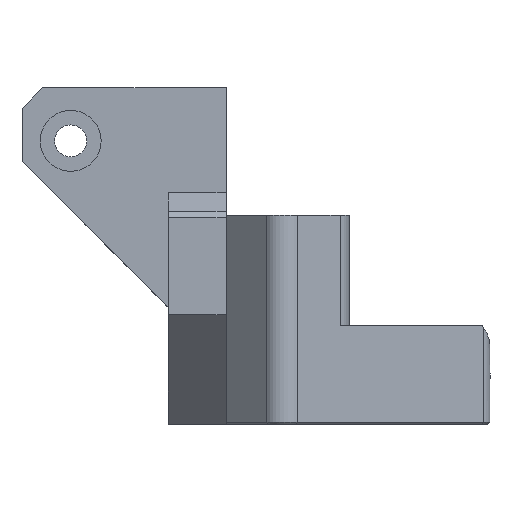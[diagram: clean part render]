
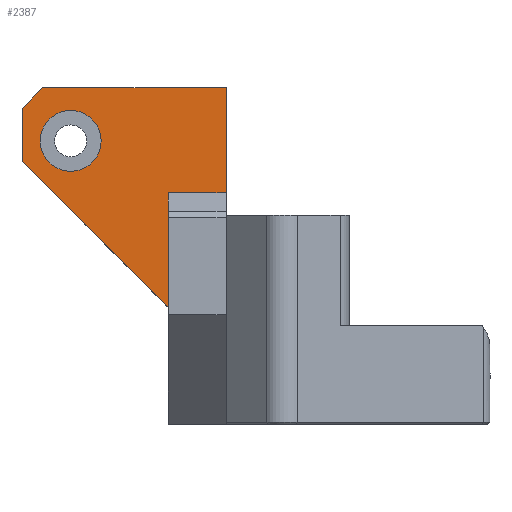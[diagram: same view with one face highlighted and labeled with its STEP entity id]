
A CAD part, left-side view. The second image highlights one B-rep face of the part: STEP entity #2387.
In plain terms, the highlighted planar face has unit normal (-1, 0, 0).
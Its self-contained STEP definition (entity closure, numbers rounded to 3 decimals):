
#99=FACE_BOUND('',#375,.T.);
#230=FACE_OUTER_BOUND('',#374,.T.);
#374=EDGE_LOOP('',(#1860,#1861,#1862,#1863,#1864,#1865,#1866,#1867,#1868,
#1869));
#375=EDGE_LOOP('',(#1870));
#493=CIRCLE('',#2558,3.);
#541=LINE('',#3276,#754);
#603=LINE('',#4470,#816);
#635=LINE('',#4588,#848);
#643=LINE('',#4611,#856);
#645=LINE('',#4614,#858);
#647=LINE('',#4620,#860);
#648=LINE('',#4621,#861);
#649=LINE('',#4622,#862);
#650=LINE('',#4624,#863);
#651=LINE('',#4625,#864);
#754=VECTOR('',#2685,10.);
#816=VECTOR('',#2831,10.);
#848=VECTOR('',#2909,10.);
#856=VECTOR('',#2935,10.);
#858=VECTOR('',#2939,10.);
#860=VECTOR('',#2945,10.);
#861=VECTOR('',#2946,10.);
#862=VECTOR('',#2947,10.);
#863=VECTOR('',#2948,10.);
#864=VECTOR('',#2949,10.);
#966=VERTEX_POINT('',#3273);
#967=VERTEX_POINT('',#3275);
#1066=VERTEX_POINT('',#4467);
#1067=VERTEX_POINT('',#4469);
#1099=VERTEX_POINT('',#4584);
#1100=VERTEX_POINT('',#4586);
#1105=VERTEX_POINT('',#4608);
#1106=VERTEX_POINT('',#4610);
#1108=VERTEX_POINT('',#4619);
#1109=VERTEX_POINT('',#4623);
#1110=VERTEX_POINT('',#4626);
#1203=EDGE_CURVE('',#967,#966,#541,.T.);
#1333=EDGE_CURVE('',#1066,#1067,#603,.T.);
#1379=EDGE_CURVE('',#1100,#1099,#635,.T.);
#1389=EDGE_CURVE('',#1105,#1106,#643,.T.);
#1391=EDGE_CURVE('',#966,#1106,#645,.T.);
#1394=EDGE_CURVE('',#1105,#1108,#647,.F.);
#1395=EDGE_CURVE('',#1108,#1067,#648,.T.);
#1396=EDGE_CURVE('',#1099,#1066,#649,.T.);
#1397=EDGE_CURVE('',#1100,#1109,#650,.T.);
#1398=EDGE_CURVE('',#1109,#967,#651,.T.);
#1399=EDGE_CURVE('',#1110,#1110,#493,.T.);
#1860=ORIENTED_EDGE('',*,*,#1389,.F.);
#1861=ORIENTED_EDGE('',*,*,#1394,.T.);
#1862=ORIENTED_EDGE('',*,*,#1395,.T.);
#1863=ORIENTED_EDGE('',*,*,#1333,.F.);
#1864=ORIENTED_EDGE('',*,*,#1396,.F.);
#1865=ORIENTED_EDGE('',*,*,#1379,.F.);
#1866=ORIENTED_EDGE('',*,*,#1397,.T.);
#1867=ORIENTED_EDGE('',*,*,#1398,.T.);
#1868=ORIENTED_EDGE('',*,*,#1203,.T.);
#1869=ORIENTED_EDGE('',*,*,#1391,.T.);
#1870=ORIENTED_EDGE('',*,*,#1399,.T.);
#2297=PLANE('',#2557);
#2387=ADVANCED_FACE('',(#230,#99),#2297,.T.);
#2557=AXIS2_PLACEMENT_3D('',#4618,#2943,#2944);
#2558=AXIS2_PLACEMENT_3D('',#4627,#2950,#2951);
#2685=DIRECTION('',(0.,1.,0.));
#2831=DIRECTION('',(0.,0.,-1.));
#2909=DIRECTION('',(0.,0.,-1.));
#2935=DIRECTION('',(0.,-0.707,0.707));
#2939=DIRECTION('',(0.,1.,0.));
#2943=DIRECTION('center_axis',(-1.,0.,0.));
#2944=DIRECTION('ref_axis',(0.,0.,
1.));
#2945=DIRECTION('',(0.,0.,1.));
#2946=DIRECTION('',(0.,-0.707,-0.707));
#2947=DIRECTION('',(0.,1.,0.));
#2948=DIRECTION('',(0.,0.,1.));
#2949=DIRECTION('',(0.,0.,1.));
#2950=DIRECTION('center_axis',(1.,0.,0.));
#2951=DIRECTION('ref_axis',(0.,0.,1.));
#3273=CARTESIAN_POINT('',(7.216,50.774,-2.513));
#3275=CARTESIAN_POINT('',(7.216,45.074,-2.513));
#3276=CARTESIAN_POINT('',(7.216,47.924,-2.513));
#4467=CARTESIAN_POINT('',(7.216,50.774,-12.831));
#4469=CARTESIAN_POINT('',(7.216,50.774,-24.164));
#4470=CARTESIAN_POINT('',(7.216,50.774,-18.909));
#4584=CARTESIAN_POINT('',(7.216,45.074,-12.831));
#4586=CARTESIAN_POINT('',(7.216,45.074,-12.164));
#4588=CARTESIAN_POINT('',(7.216,45.074,-12.164));
#4608=CARTESIAN_POINT('',(7.216,65.174,-4.513));
#4610=CARTESIAN_POINT('',(7.216,63.174,-2.513));
#4611=CARTESIAN_POINT('',(7.216,62.987,-2.326));
#4614=CARTESIAN_POINT('',(7.216,50.774,-2.513));
#4618=CARTESIAN_POINT('Origin',(7.216,50.774,-12.164));
#4619=CARTESIAN_POINT('',(7.216,65.174,-9.764));
#4620=CARTESIAN_POINT('',(7.216,65.174,-9.751));
#4621=CARTESIAN_POINT('',(7.216,56.774,-18.164));
#4622=CARTESIAN_POINT('',(7.216,47.924,-12.831));
#4623=CARTESIAN_POINT('',(7.216,45.074,-10.951));
#4624=CARTESIAN_POINT('',(7.216,45.074,-11.557));
#4625=CARTESIAN_POINT('',(7.216,45.074,-10.567));
#4626=CARTESIAN_POINT('',(7.216,60.383,-10.738));
#4627=CARTESIAN_POINT('Origin',(7.216,60.383,-7.738));
